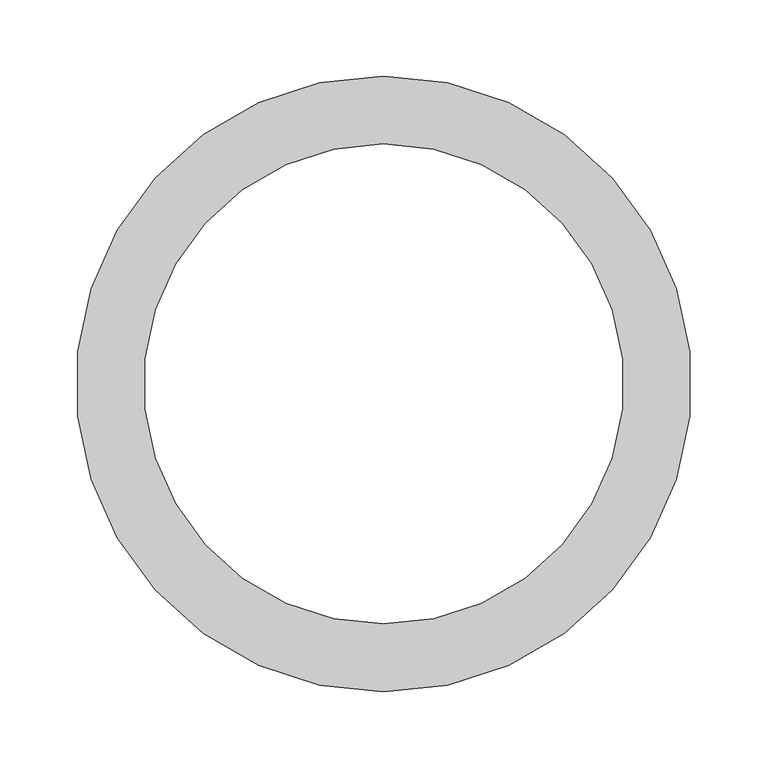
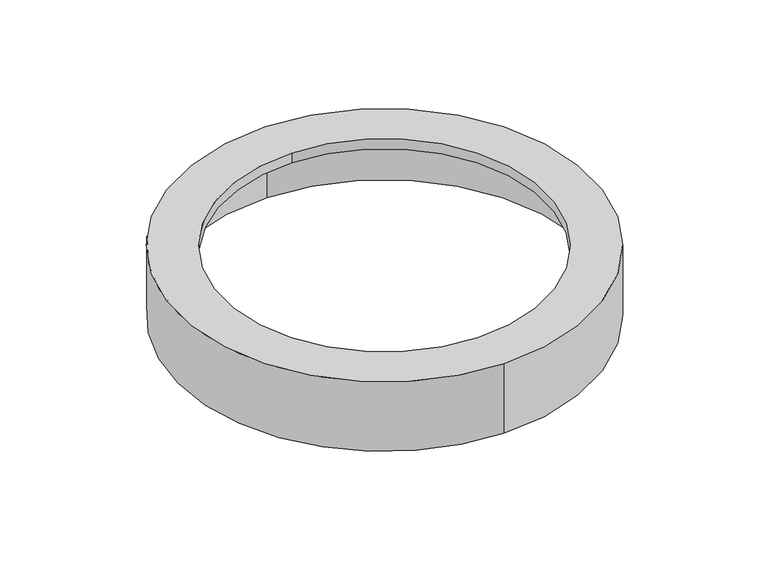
"""IFC4 building model written with IfcOpenShell, lengths in millimetres: valve geometry, Pipelife - Studnia PRO - Uszczelka teleskopowa : 400/315 DW."""

from ifc_helpers import new_model, si_unit, frame, origin, place, context, project, spatial, polyline, circle_curve, source, transform, mapped, element, save
from ifc_brep_helpers import plane_surface, cylinder_surface, revolved_surface, advanced_brep


def valve_f12f18ea(model_context):
    return source(origin(), model_context, "Body", "AdvancedBrep", [
        advanced_brep(
        [(0.0, 202.0, 72.0), (0.0, -202.0, 72.0), (0.0, -157.5, 72.0), (0.0, 157.5, 72.0), (0.0, 202.0, 0.0), (0.0, -202.0, 0.0), (0.0, 200.0, 0.0), (0.0, -200.0, 0.0), (0.0, 200.0, 62.0), (0.0, -200.0, 62.0), (0.0, 157.5, 62.0), (0.0, -157.5, 62.0)],
        [
            (0, 1, circle_curve(frame((0.0, 0.0, 72.0), z_axis=(0.0, 0.0, 1.0), x_axis=(0.0, -1.0, 0.0)), 202.0)),
            (1, 0, circle_curve(frame((0.0, 0.0, 72.0), z_axis=(0.0, 0.0, 1.0), x_axis=(0.0, -1.0, 0.0)), 202.0)),
            (2, 3, circle_curve(frame((0.0, 0.0, 72.0), z_axis=(0.0, 0.0, -1.0), x_axis=(0.0, -1.0, 0.0)), 157.5)),
            (3, 2, circle_curve(frame((0.0, 0.0, 72.0), z_axis=(0.0, 0.0, -1.0), x_axis=(0.0, -1.0, 0.0)), 157.5)),
            (4, 5, circle_curve(frame((0.0, 0.0, 0.0), z_axis=(0.0, 0.0, -1.0), x_axis=(0.0, -1.0, 0.0)), 202.0)),
            (5, 4, circle_curve(frame((0.0, 0.0, 0.0), z_axis=(0.0, 0.0, -1.0), x_axis=(0.0, -1.0, 0.0)), 202.0)),
            (6, 7, circle_curve(frame((0.0, 0.0, 0.0), z_axis=(0.0, 0.0, 1.0), x_axis=(0.0, -1.0, 0.0)), 200.0)),
            (7, 6, circle_curve(frame((0.0, 0.0, 0.0), z_axis=(0.0, 0.0, 1.0), x_axis=(0.0, -1.0, 0.0)), 200.0)),
            (0, 4),
            (5, 1),
            (8, 9, circle_curve(frame((0.0, 0.0, 62.0), z_axis=(0.0, 0.0, -1.0), x_axis=(0.0, -1.0, 0.0)), 200.0)),
            (9, 8, circle_curve(frame((0.0, 0.0, 62.0), z_axis=(0.0, 0.0, -1.0), x_axis=(0.0, -1.0, 0.0)), 200.0)),
            (10, 11, circle_curve(frame((0.0, 0.0, 62.0), z_axis=(0.0, 0.0, 1.0), x_axis=(0.0, -1.0, 0.0)), 157.5)),
            (11, 10, circle_curve(frame((0.0, 0.0, 62.0), z_axis=(0.0, 0.0, 1.0), x_axis=(0.0, -1.0, 0.0)), 157.5)),
            (9, 7),
            (6, 8),
            (2, 11),
            (10, 3),
        ],
        [
            plane_surface(frame((0.0, 0.0, 72.0), z_axis=(0.0, 0.0, 1.0), x_axis=(0.0, -1.0, 0.0))),
            plane_surface(frame((0.0, 0.0, 0.0), z_axis=(0.0, 0.0, -1.0), x_axis=(0.0, -1.0, 0.0))),
            cylinder_surface(frame((0.0, 0.0, 72.0), z_axis=(0.0, 0.0, 1.0), x_axis=(0.0, -1.0, 0.0)), 202.0),
            plane_surface(frame((0.0, 0.0, 62.0), z_axis=(0.0, 0.0, -1.0), x_axis=(0.0, -1.0, 0.0))),
            revolved_surface(polyline([(0.0, -200.0, 62.0), (0.0, -200.0, 0.0)]), (0.0, 0.0, 62.0), (0.0, 0.0, 1.0)),
            revolved_surface(polyline([(0.0, -157.5, 72.0), (0.0, -157.5, 62.0)]), (0.0, 0.0, 72.0), (0.0, 0.0, 1.0)),
        ],
        [
            (0, [[1, 2], [3, 4]]),
            (1, [[5, 6], [7, 8]]),
            (2, [[-1, 9, -6, 10]]),
            (2, [[-2, -10, -5, -9]]),
            (3, [[11, 12], [13, 14]]),
            (4, [[-12, 15, -7, 16]]),
            (4, [[-11, -16, -8, -15]]),
            (5, [[17, -13, 18, -3]]),
            (5, [[-17, -4, -18, -14]]),
        ],
    ),
    ])


if __name__ == "__main__":
    model = new_model("IFC4")
    model_context = context("Model", 3, world=origin())
    ifc_project = project(units=[si_unit("LENGTHUNIT", "METRE", prefix="MILLI")], contexts=[model_context])
    site = spatial("IfcSite", under=ifc_project)
    building = spatial("IfcBuilding", under=site)
    placement = place(None, origin())
    valve_shape = valve_f12f18ea(model_context)
    element("IfcValve", 1, ObjectType="Pipelife - Studnia PRO - Uszczelka teleskopowa : 400/315 DW", at=placement, inside=building, context=model_context, shape_type="MappedRepresentation", body=[
        mapped(valve_shape, transform((0.0, 0.0, 0.0), x_axis=(1.0, 0.0, 0.0), y_axis=(0.0, 1.0, 0.0), z_axis=(0.0, 0.0, 1.0))),
    ])
    save(model, "model.ifc")
